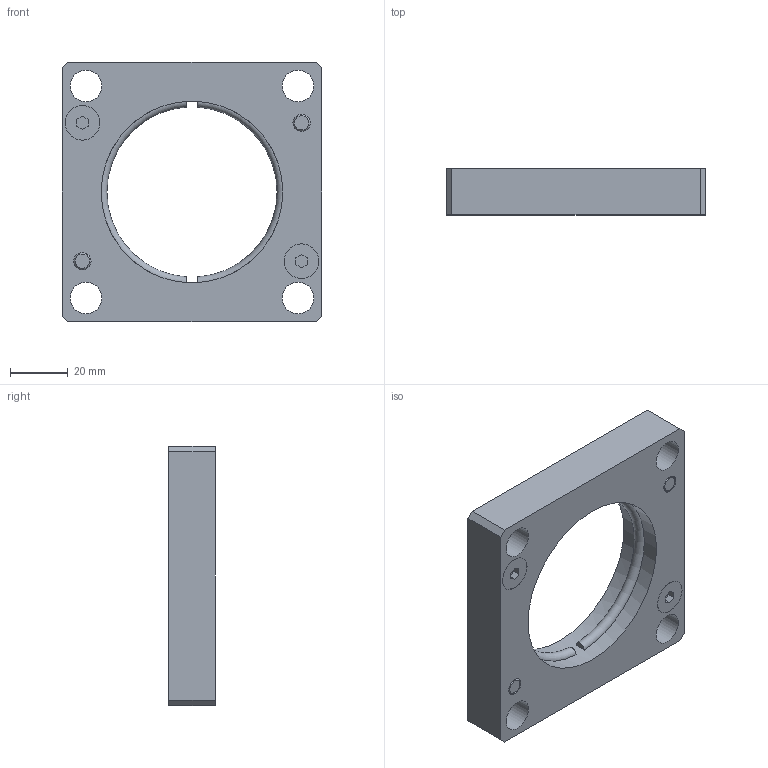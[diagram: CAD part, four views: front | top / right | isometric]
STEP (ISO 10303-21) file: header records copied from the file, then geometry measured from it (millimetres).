
FILE_DESCRIPTION(/* description */ (''),/* implementation_level */ '2;1');
FILE_NAME(/* name */ 'C:\Users\Jefferson\Desktop\Biblioteca Pro Nitro 2024 - Inventor\Flanges\PNB-65-XXX\PNB-65-063.stp',/* time_stamp */ '2024-12-30T16:07:30-03:00',/* author */ ('Jefferson'),/* organization */ (''),/* preprocessor_version */ 'ST-DEVELOPER v19',/* originating_system */ 'Autodesk Inventor 2023',/* authorisation */ '');
FILE_SCHEMA (('AUTOMOTIVE_DESIGN { 1 0 10303 214 3 1 1 }'));
Length unit declared in the file: millimetre
Products named in the file (3): PNB-65-063; DNB-0016-063; DIN 7991 - M6x16
Assembly tree (5 placements, depth 2):
  PNB-65-063
    DNB-0016-063
    DIN 7991 - M6x16  x4
Bounding box: 90 x 16 x 90 mm (x, y, z)
Volume: 74621.9 mm3; surface area: 23739 mm2
Topology: 5 solids, 5 shells, 260 faces, 681 edges, 452 vertices
Faces by surface type: plane 121, bspline 104, cylinder 17, cone 12, torus 6
Full cylindrical faces by diameter (mm): 6 x8, 11 x4, 12 x4, 63 x1
Entity records: 7584 total; most frequent: CARTESIAN_POINT 2620, ORIENTED_EDGE 1170, DIRECTION 657, EDGE_CURVE 585, VERTEX_POINT 389, LINE 333, VECTOR 333, EDGE_LOOP 254
